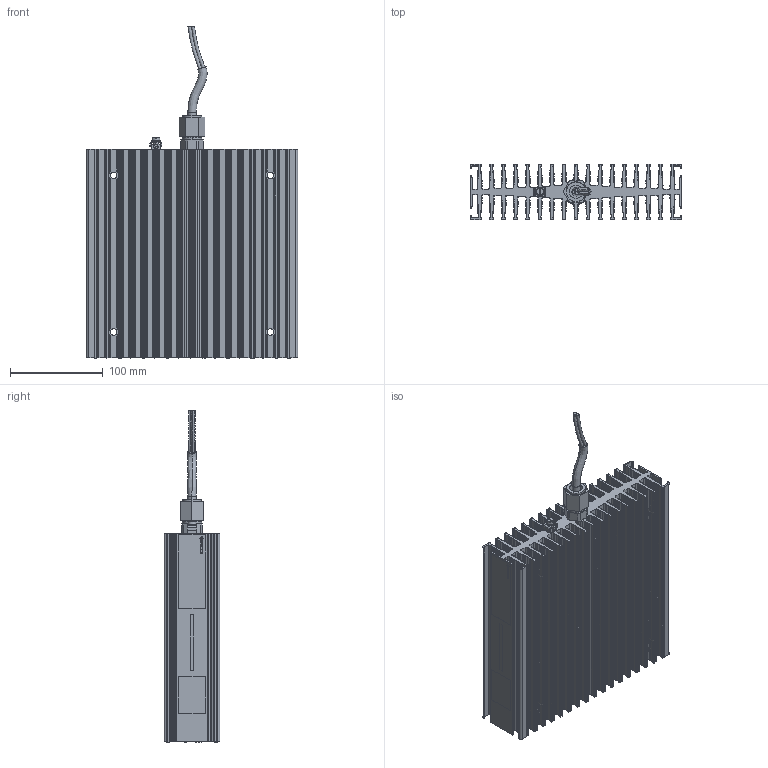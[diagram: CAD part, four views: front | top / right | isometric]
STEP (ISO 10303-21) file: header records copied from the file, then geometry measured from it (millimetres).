
FILE_DESCRIPTION (( 'STEP AP203' ), '1' );
FILE_NAME ('DAHHL4002A.STEP', '2014-11-12T18:28:11', ( 'User' ), ( 'Pentair Inc' ), 'SwSTEP 2.0', 'SolidWorks 2010', '' );
FILE_SCHEMA (( 'CONFIG_CONTROL_DESIGN' ));
Products named in the file (1): DAHHL4002A
Bounding box: 228.13 x 60 x 358.06 mm (x, y, z)
Surface area: 627482.3 mm2 (no closed solid volume)
Topology: 0 solids, 10 shells, 2815 faces, 8244 edges, 5484 vertices
Faces by surface type: cylinder 1978, plane 780, bspline 33, cone 24
Full cylindrical faces by diameter (mm): 18 x2
Entity records: 110097 total; most frequent: CARTESIAN_POINT 33074, DIRECTION 16814, ORIENTED_EDGE 16466, EDGE_CURVE 8237, AXIS2_PLACEMENT_3D 6393, VERTEX_POINT 5482, LINE 4028, VECTOR 4028
